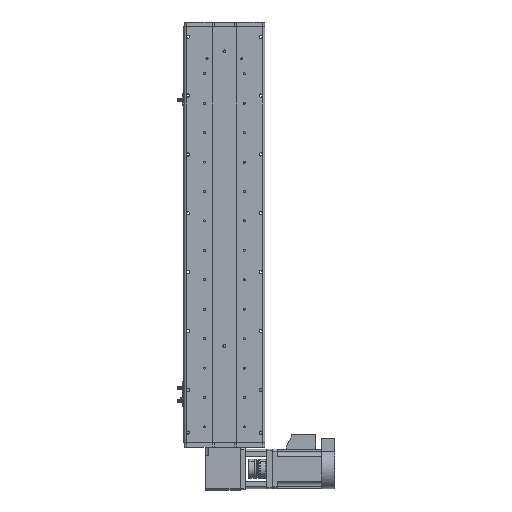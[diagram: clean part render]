
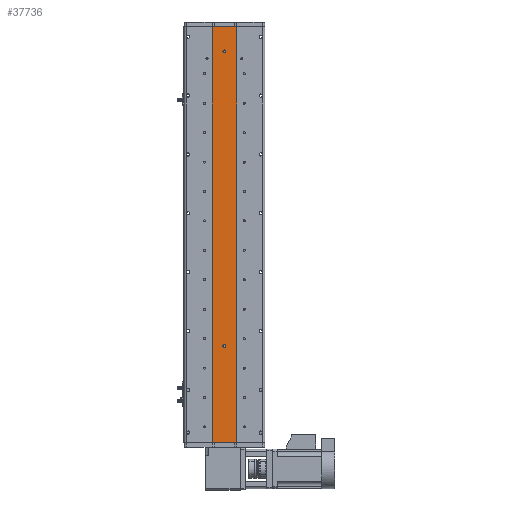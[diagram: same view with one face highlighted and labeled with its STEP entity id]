
A CAD part, front view. The second image highlights one B-rep face of the part: STEP entity #37736.
In plain terms, the highlighted planar face has unit normal (0, -1, 0).
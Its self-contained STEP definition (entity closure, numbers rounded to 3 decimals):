
#269 = AXIS2_PLACEMENT_3D ( 'NONE', #24987, #2764, #28718 ) ;
#481 = ORIENTED_EDGE ( 'NONE', *, *, #43957, .T. ) ;
#1154 = LINE ( 'NONE', #36264, #9866 ) ;
#1566 = VECTOR ( 'NONE', #4934, 1000. ) ;
#1947 = CARTESIAN_POINT ( 'NONE',  ( 25., 1., 423.5 ) ) ;
#2143 = VERTEX_POINT ( 'NONE', #23192 ) ;
#2764 = DIRECTION ( 'NONE',  ( 0., -1., 0. ) ) ;
#3232 = EDGE_LOOP ( 'NONE', ( #481, #37590, #26803, #10721 ) ) ;
#3401 = EDGE_CURVE ( 'NONE', #4340, #9384, #1154, .T. ) ;
#4340 = VERTEX_POINT ( 'NONE', #15880 ) ;
#4934 = DIRECTION ( 'NONE',  ( 1., 0., 0. ) ) ;
#6422 = DIRECTION ( 'NONE',  ( 0., 0., -1. ) ) ;
#6459 = CIRCLE ( 'NONE', #21411, 3. ) ;
#6493 = FACE_BOUND ( 'NONE', #25756, .T. ) ;
#6768 = VERTEX_POINT ( 'NONE', #21919 ) ;
#7733 = EDGE_CURVE ( 'NONE', #41406, #6768, #13534, .T. ) ;
#8955 = VERTEX_POINT ( 'NONE', #41386 ) ;
#9373 = CARTESIAN_POINT ( 'NONE',  ( 0., 1., -226.5 ) ) ;
#9384 = VERTEX_POINT ( 'NONE', #10534 ) ;
#9866 = VECTOR ( 'NONE', #37888, 1000. ) ;
#9903 = ORIENTED_EDGE ( 'NONE', *, *, #21125, .F. ) ;
#10534 = CARTESIAN_POINT ( 'NONE',  ( 25., 1., -423.5 ) ) ;
#10667 = PLANE ( 'NONE',  #42687 ) ;
#10721 = ORIENTED_EDGE ( 'NONE', *, *, #17223, .T. ) ;
#10944 = LINE ( 'NONE', #1947, #39389 ) ;
#13147 = DIRECTION ( 'NONE',  ( 0., 0., -1. ) ) ;
#13534 = CIRCLE ( 'NONE', #17250, 3. ) ;
#15880 = CARTESIAN_POINT ( 'NONE',  ( 25., 1., 423.5 ) ) ;
#17223 = EDGE_CURVE ( 'NONE', #41733, #18723, #17961, .T. ) ;
#17250 = AXIS2_PLACEMENT_3D ( 'NONE', #22145, #48071, #25860 ) ;
#17961 = LINE ( 'NONE', #36138, #27802 ) ;
#18723 = VERTEX_POINT ( 'NONE', #19425 ) ;
#19425 = CARTESIAN_POINT ( 'NONE',  ( -25., 1., -423.5 ) ) ;
#21125 = EDGE_CURVE ( 'NONE', #6768, #41406, #44166, .T. ) ;
#21411 = AXIS2_PLACEMENT_3D ( 'NONE', #9373, #35323, #13147 ) ;
#21532 = EDGE_CURVE ( 'NONE', #8955, #2143, #6459, .T. ) ;
#21892 = DIRECTION ( 'NONE',  ( 0., -1., 0. ) ) ;
#21919 = CARTESIAN_POINT ( 'NONE',  ( 0., 1., 376.5 ) ) ;
#22145 = CARTESIAN_POINT ( 'NONE',  ( 0., 1., 373.5 ) ) ;
#23118 = EDGE_CURVE ( 'NONE', #41733, #4340, #10944, .T. ) ;
#23192 = CARTESIAN_POINT ( 'NONE',  ( 0., 1., -229.5 ) ) ;
#24040 = CIRCLE ( 'NONE', #269, 3. ) ;
#24987 = CARTESIAN_POINT ( 'NONE',  ( 0., 1., -226.5 ) ) ;
#25102 = FACE_OUTER_BOUND ( 'NONE', #3232, .T. ) ;
#25560 = DIRECTION ( 'NONE',  ( 0., 0., 1. ) ) ;
#25756 = EDGE_LOOP ( 'NONE', ( #40724, #9903 ) ) ;
#25860 = DIRECTION ( 'NONE',  ( 0., 0., -1. ) ) ;
#26803 = ORIENTED_EDGE ( 'NONE', *, *, #23118, .F. ) ;
#27802 = VECTOR ( 'NONE', #6422, 1000. ) ;
#28596 = CARTESIAN_POINT ( 'NONE',  ( 0., 1., 370.5 ) ) ;
#28718 = DIRECTION ( 'NONE',  ( 0., 0., -1. ) ) ;
#30715 = AXIS2_PLACEMENT_3D ( 'NONE', #44081, #21892, #47809 ) ;
#30943 = CARTESIAN_POINT ( 'NONE',  ( 25., 1., -423.5 ) ) ;
#34249 = EDGE_CURVE ( 'NONE', #2143, #8955, #24040, .T. ) ;
#34987 = FACE_BOUND ( 'NONE', #38531, .T. ) ;
#35323 = DIRECTION ( 'NONE',  ( 0., -1., 0. ) ) ;
#36138 = CARTESIAN_POINT ( 'NONE',  ( -25., 1., 423.5 ) ) ;
#36264 = CARTESIAN_POINT ( 'NONE',  ( 25., 1., 423.5 ) ) ;
#37590 = ORIENTED_EDGE ( 'NONE', *, *, #3401, .F. ) ;
#37736 = ADVANCED_FACE ( 'NONE', ( #6493, #34987, #25102 ), #10667, .F. ) ;
#37888 = DIRECTION ( 'NONE',  ( 0., 0., -1. ) ) ;
#38531 = EDGE_LOOP ( 'NONE', ( #46628, #41191 ) ) ;
#39389 = VECTOR ( 'NONE', #42667, 1000. ) ;
#40340 = CARTESIAN_POINT ( 'NONE',  ( 25., 1., 423.5 ) ) ;
#40724 = ORIENTED_EDGE ( 'NONE', *, *, #7733, .F. ) ;
#41191 = ORIENTED_EDGE ( 'NONE', *, *, #21532, .F. ) ;
#41386 = CARTESIAN_POINT ( 'NONE',  ( 0., 1., -223.5 ) ) ;
#41406 = VERTEX_POINT ( 'NONE', #28596 ) ;
#41733 = VERTEX_POINT ( 'NONE', #42532 ) ;
#42202 = LINE ( 'NONE', #30943, #1566 ) ;
#42532 = CARTESIAN_POINT ( 'NONE',  ( -25., 1., 423.5 ) ) ;
#42667 = DIRECTION ( 'NONE',  ( 1., 0., 0. ) ) ;
#42687 = AXIS2_PLACEMENT_3D ( 'NONE', #40340, #47773, #25560 ) ;
#43957 = EDGE_CURVE ( 'NONE', #18723, #9384, #42202, .T. ) ;
#44081 = CARTESIAN_POINT ( 'NONE',  ( 0., 1., 373.5 ) ) ;
#44166 = CIRCLE ( 'NONE', #30715, 3. ) ;
#46628 = ORIENTED_EDGE ( 'NONE', *, *, #34249, .F. ) ;
#47773 = DIRECTION ( 'NONE',  ( 0., 1., 0. ) ) ;
#47809 = DIRECTION ( 'NONE',  ( 0., 0., -1. ) ) ;
#48071 = DIRECTION ( 'NONE',  ( 0., -1., 0. ) ) ;
